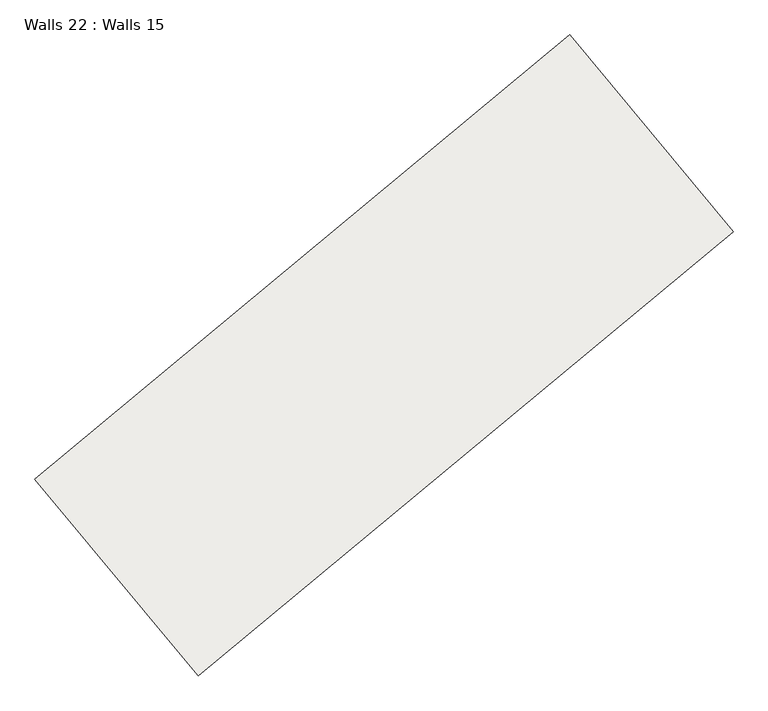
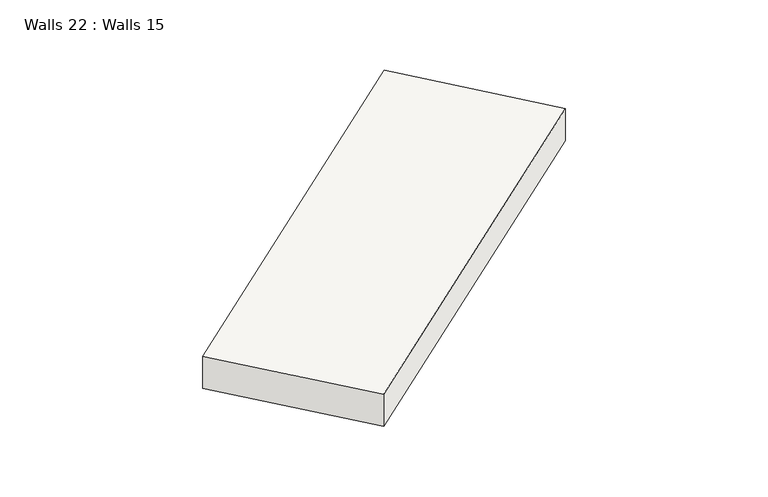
"""IFC4 building model written with IfcOpenShell, lengths in millimetres: slab geometry, Walls 22 : Walls 15."""

from ifc_helpers import new_model, si_unit, frame, origin, place, context, project, spatial, polyline, outline, extrude, source, transform, mapped, element, save


def walls_22_walls_15_c5b6599f(model_context):
    return source(origin(), model_context, "Body", "SweptSolid", [
        extrude(outline(polyline([(-325.0, 0.0), (325.0, 0.0), (245.0, -8699.8912329), (-405.0, -8699.8912329), (-325.0, 0.0)])), frame((-257388.7999451, -418891.7206598, 634805.0), z_axis=(-0.6389407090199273, 0.7692559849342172, 0.0), x_axis=(0.0, 0.0, 1.0)), (0.0, 0.0, 1.0), 3199.9650046),
    ])


if __name__ == "__main__":
    model = new_model("IFC4")
    model_context = context("Model", 3, world=origin())
    ifc_project = project(units=[si_unit("LENGTHUNIT", "METRE", prefix="MILLI")], contexts=[model_context])
    site = spatial("IfcSite", under=ifc_project)
    building = spatial("IfcBuilding", under=site)
    placement = place(None, origin())
    walls_22_walls_15_shape = walls_22_walls_15_c5b6599f(model_context)
    element("IfcSlab", 1, ObjectType="Walls 22 : Walls 15", at=placement, inside=building, context=model_context, shape_type="MappedRepresentation", body=[
        mapped(walls_22_walls_15_shape, transform((0.0, 0.0, 0.0), x_axis=(1.0, 0.0, 0.0), y_axis=(0.0, 1.0, 0.0), z_axis=(0.0, 0.0, 1.0))),
    ])
    save(model, "model.ifc")
